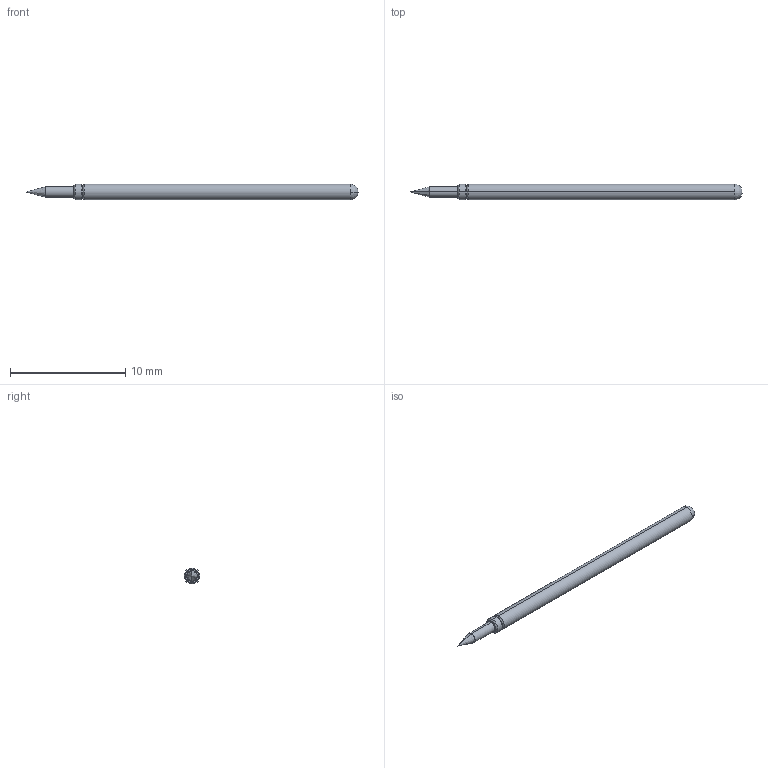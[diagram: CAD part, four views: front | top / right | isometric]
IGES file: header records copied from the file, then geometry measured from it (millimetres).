
Start section: SolidWorks IGES file using analytic representation for surfaces
Global section: file name: Z:\probe solid model mockups\Solidworks models\IGES Files\HCP-25 IGES files\HCP-25B RECD.IGS; native system: SolidWorks 2006 by SolidWorks Corporation; preprocessor: SolidWorks 2006 by SolidWorks Corporation; author: tsakatani; date: 080102.152137; units: inch
Bounding box: 28.78 x 1.37 x 1.37 mm (x, y, z)
Surface area: 116.6 mm2 (no closed solid volume)
Topology: 0 solids, 0 shells, 20 faces, 124 edges, 122 vertices
Faces by surface type: revolution 14, bspline 6
